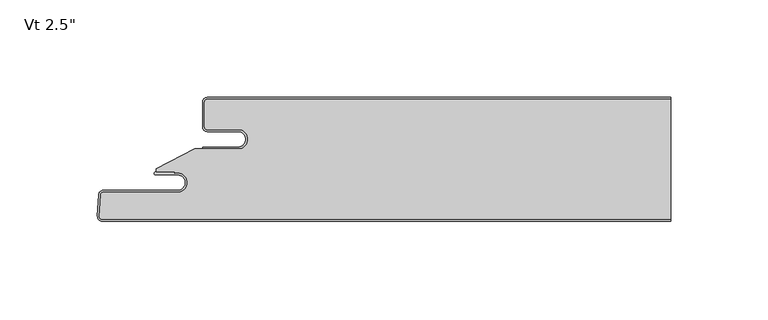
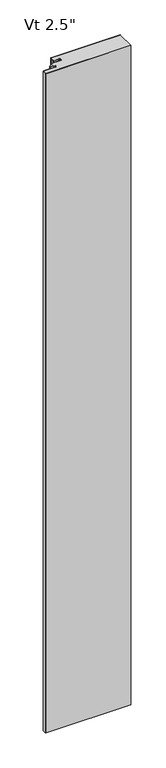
"""IFC4 building model written with IfcOpenShell, lengths in millimetres: plate geometry."""

from ifc_helpers import new_model, si_unit, point, frame_2d, origin, origin_with_axes, place, context, project, spatial, polyline, circle_curve, trimmed, segment, composite_curve, outline, extrude, source, transform, mapped, element, save


def plate_93284a91(model_context):
    return source(origin(), model_context, "Body", "SweptSolid", [
        extrude(outline(composite_curve([segment(polyline([(-101.3499998, -16.4625), (-117.2249998, -16.4625)]), True, "CONTINUOUS"), segment(trimmed(circle_curve(frame_2d((-117.2249998, -15.08125)), 1.38125), [point((-117.2249998, -16.4625))], [point((-118.6062498, -15.08125))], False, "CARTESIAN"), True, "CONTINUOUS"), segment(polyline([(-118.6062498, -15.08125), (-118.6062498, -2.38125)]), True, "CONTINUOUS"), segment(trimmed(circle_curve(frame_2d((-117.2249998, -2.38125)), 1.38125), [point((-118.6062498, -2.38125))], [point((-117.2249998, -1.0))], False, "CARTESIAN"), True, "CONTINUOUS"), segment(polyline([(-117.2249998, -1.0), (120.3999998, -1.0), (120.3999998, -62.5), (-171.0862034, -62.5)]), True, "CONTINUOUS"), segment(trimmed(circle_curve(frame_2d((-171.0862034, -61.11875)), 1.38125), [point((-171.0862034, -62.5))], [point((-172.4655604, -61.046461))], False, "CARTESIAN"), True, "CONTINUOUS"), segment(polyline([(-172.4655604, -61.046461), (-171.883179, -49.933961)]), True, "CONTINUOUS"), segment(trimmed(circle_curve(frame_2d((-170.5038219, -50.00625)), 1.38125), [point((-171.883179, -49.933961))], [point((-170.5038219, -48.625))], False, "CARTESIAN"), True, "CONTINUOUS"), segment(polyline([(-170.5038219, -48.625), (-132.3205173, -48.625)]), True, "CONTINUOUS"), segment(trimmed(circle_curve(frame_2d((-132.3205173, -43.65625)), 4.96875), [point((-132.3205173, -48.625))], [point((-132.3205173, -38.6875))], True, "CARTESIAN"), True, "CONTINUOUS"), segment(polyline([(-132.3205173, -38.6875), (-133.9080173, -38.89375), (-133.9080173, -38.1), (-143.4187498, -38.1), (-143.4187498, -36.5326309), (-123.5323421, -26.4), (-101.3499998, -26.4)]), True, "CONTINUOUS"), segment(trimmed(circle_curve(frame_2d((-101.3499998, -21.43125)), 4.96875), [point((-101.3499998, -26.4))], [point((-101.3499998, -16.4625))], True, "CARTESIAN"), True, "CONTINUOUS")], self_intersect=False)), origin_with_axes(), (0.0, 0.0, 1.0), 2400.0),
        extrude(outline(composite_curve([segment(polyline([(-119.6062498, -25.4), (-101.3499998, -25.4)]), True, "CONTINUOUS"), segment(trimmed(circle_curve(frame_2d((-101.3499998, -21.43125)), 3.96875), [point((-101.3499998, -25.4))], [point((-101.3499998, -17.4625))], True, "CARTESIAN"), True, "CONTINUOUS"), segment(polyline([(-101.3499998, -17.4625), (-117.2249998, -17.4625)]), True, "CONTINUOUS"), segment(trimmed(circle_curve(frame_2d((-117.2249998, -15.08125)), 2.38125), [point((-117.2249998, -17.4625))], [point((-119.6062498, -15.08125))], False, "CARTESIAN"), True, "CONTINUOUS"), segment(polyline([(-119.6062498, -15.08125), (-119.6062498, -2.38125)]), True, "CONTINUOUS"), segment(trimmed(circle_curve(frame_2d((-117.2249998, -2.38125)), 2.38125), [point((-119.6062498, -2.38125))], [point((-117.2249998, 0.0))], False, "CARTESIAN"), True, "CONTINUOUS"), segment(polyline([(-117.2249998, 0.0), (120.3999998, 0.0), (120.3999998, -1.0), (-117.2249998, -1.0)]), True, "CONTINUOUS"), segment(trimmed(circle_curve(frame_2d((-117.2249998, -2.38125)), 1.38125), [point((-117.2249998, -1.0))], [point((-118.6062498, -2.38125))], True, "CARTESIAN"), True, "CONTINUOUS"), segment(polyline([(-118.6062498, -2.38125), (-118.6062498, -15.08125)]), True, "CONTINUOUS"), segment(trimmed(circle_curve(frame_2d((-117.2249998, -15.08125)), 1.38125), [point((-118.6062498, -15.08125))], [point((-117.2249998, -16.4625))], True, "CARTESIAN"), True, "CONTINUOUS"), segment(polyline([(-117.2249998, -16.4625), (-101.3499998, -16.4625)]), True, "CONTINUOUS"), segment(trimmed(circle_curve(frame_2d((-101.3499998, -21.43125)), 4.96875), [point((-101.3499998, -16.4625))], [point((-101.3499998, -26.4))], False, "CARTESIAN"), True, "CONTINUOUS"), segment(polyline([(-101.3499998, -26.4), (-119.6062498, -26.4), (-119.6062498, -25.4)]), True, "CONTINUOUS")], self_intersect=False)), origin_with_axes(), (0.0, 0.0, 1.0), 2400.0),
        extrude(outline(composite_curve([segment(polyline([(-143.6314548, -38.1), (-133.9080173, -38.1), (-133.9080173, -38.89375), (-132.3205173, -38.6875)]), True, "CONTINUOUS"), segment(trimmed(circle_curve(frame_2d((-132.3205173, -43.65625)), 4.96875), [point((-132.3205173, -38.6875))], [point((-132.3205173, -48.625))], False, "CARTESIAN"), True, "CONTINUOUS"), segment(polyline([(-132.3205173, -48.625), (-170.5038219, -48.625)]), True, "CONTINUOUS"), segment(trimmed(circle_curve(frame_2d((-170.5038219, -50.00625)), 1.38125), [point((-170.5038219, -48.625))], [point((-171.883179, -49.933961))], True, "CARTESIAN"), True, "CONTINUOUS"), segment(polyline([(-171.883179, -49.933961), (-172.4655604, -61.046461)]), True, "CONTINUOUS"), segment(trimmed(circle_curve(frame_2d((-171.0862034, -61.11875)), 1.38125), [point((-172.4655604, -61.046461))], [point((-171.0862034, -62.5))], True, "CARTESIAN"), True, "CONTINUOUS"), segment(polyline([(-171.0862034, -62.5), (120.3999998, -62.5), (120.3999998, -63.5), (-171.0862034, -63.5)]), True, "CONTINUOUS"), segment(trimmed(circle_curve(frame_2d((-171.0862034, -61.11875)), 2.38125), [point((-171.0862034, -63.5))], [point((-173.4641899, -60.994125))], False, "CARTESIAN"), True, "CONTINUOUS"), segment(polyline([(-173.4641899, -60.994125), (-172.8818085, -49.881625)]), True, "CONTINUOUS"), segment(trimmed(circle_curve(frame_2d((-170.5038219, -50.00625)), 2.38125), [point((-172.8818085, -49.881625))], [point((-170.5038219, -47.625))], False, "CARTESIAN"), True, "CONTINUOUS"), segment(polyline([(-170.5038219, -47.625), (-132.3205173, -47.625)]), True, "CONTINUOUS"), segment(trimmed(circle_curve(frame_2d((-132.3205173, -43.65625)), 3.96875), [point((-132.3205173, -47.625))], [point((-132.3205173, -39.6875))], True, "CARTESIAN"), True, "CONTINUOUS"), segment(polyline([(-132.3205173, -39.6875), (-143.6314548, -39.6875)]), True, "CONTINUOUS"), segment(trimmed(circle_curve(frame_2d((-143.6314548, -38.89375)), 0.79375), [point((-143.6314548, -39.6875))], [point((-143.6314548, -38.1))], False, "CARTESIAN"), True, "CONTINUOUS")], self_intersect=False)), origin_with_axes(), (0.0, 0.0, 1.0), 2400.0),
    ])


if __name__ == "__main__":
    model = new_model("IFC4")
    model_context = context("Model", 3, world=origin())
    ifc_project = project(units=[si_unit("LENGTHUNIT", "METRE", prefix="MILLI")], contexts=[model_context])
    site = spatial("IfcSite", under=ifc_project)
    building = spatial("IfcBuilding", under=site)
    placement = place(None, origin())
    plate_shape = plate_93284a91(model_context)
    element("IfcPlate", 1, ObjectType="KIP-24-DWTR-R19-CP-Vt-F : Vt 2.5\"", at=placement, inside=building, context=model_context, shape_type="MappedRepresentation", body=[
        mapped(plate_shape, transform((0.0, 0.0, 0.0), x_axis=(1.0, 0.0, 0.0), y_axis=(0.0, 1.0, 0.0), z_axis=(0.0, 0.0, 1.0))),
    ])
    save(model, "model.ifc")
